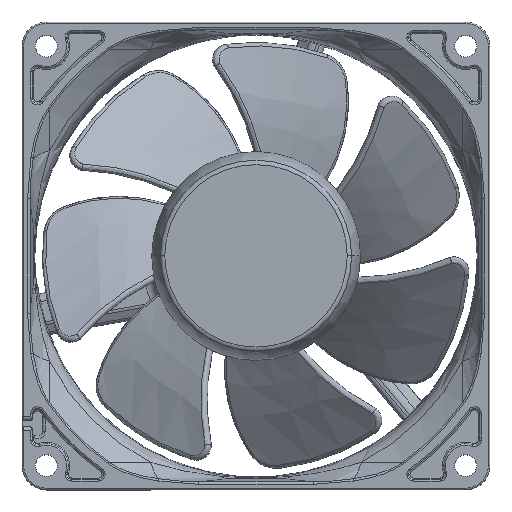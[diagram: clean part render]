
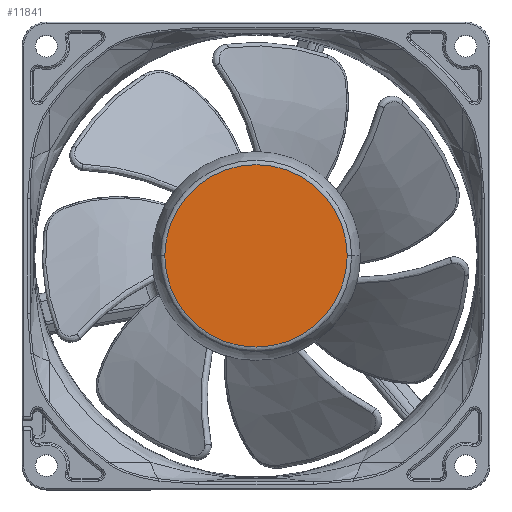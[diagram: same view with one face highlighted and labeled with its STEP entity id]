
A CAD part, top view. The second image highlights one B-rep face of the part: STEP entity #11841.
In plain terms, the highlighted planar face has unit normal (0, 0, 1).
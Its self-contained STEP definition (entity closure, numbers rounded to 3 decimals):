
#658 = PLANE ( 'NONE',  #34360 ) ;
#3933 = CARTESIAN_POINT ( 'NONE',  ( -17.937, 0., 31.4 ) ) ;
#6993 = FACE_OUTER_BOUND ( 'NONE', #13593, .T. ) ;
#7076 = CARTESIAN_POINT ( 'NONE',  ( 0., 0., 31.4 ) ) ;
#7643 = AXIS2_PLACEMENT_3D ( 'NONE', #7076, #25665, #9764 ) ;
#8652 = DIRECTION ( 'NONE',  ( 0., 0., 1. ) ) ;
#9583 = ORIENTED_EDGE ( 'NONE', *, *, #14613, .F. ) ;
#9764 = DIRECTION ( 'NONE',  ( -1., 0., 0. ) ) ;
#10255 = CIRCLE ( 'NONE', #21319, 17.937 ) ;
#11841 = ADVANCED_FACE ( 'NONE', ( #6993 ), #658, .T. ) ;
#13297 = CIRCLE ( 'NONE', #7643, 17.937 ) ;
#13593 = EDGE_LOOP ( 'NONE', ( #24647, #9583 ) ) ;
#13848 = VERTEX_POINT ( 'NONE', #15924 ) ;
#14112 = DIRECTION ( 'NONE',  ( 0., 0., -1. ) ) ;
#14613 = EDGE_CURVE ( 'NONE', #13848, #23533, #10255, .T. ) ;
#15924 = CARTESIAN_POINT ( 'NONE',  ( 17.937, 0., 31.4 ) ) ;
#21319 = AXIS2_PLACEMENT_3D ( 'NONE', #30023, #14112, #32666 ) ;
#23533 = VERTEX_POINT ( 'NONE', #3933 ) ;
#24205 = CARTESIAN_POINT ( 'NONE',  ( 0., 0., 31.4 ) ) ;
#24647 = ORIENTED_EDGE ( 'NONE', *, *, #31823, .F. ) ;
#25665 = DIRECTION ( 'NONE',  ( 0., 0., -1. ) ) ;
#27252 = DIRECTION ( 'NONE',  ( 1., 0., 0. ) ) ;
#30023 = CARTESIAN_POINT ( 'NONE',  ( 0., 0., 31.4 ) ) ;
#31823 = EDGE_CURVE ( 'NONE', #23533, #13848, #13297, .T. ) ;
#32666 = DIRECTION ( 'NONE',  ( -1., 0., 0. ) ) ;
#34360 = AXIS2_PLACEMENT_3D ( 'NONE', #24205, #8652, #27252 ) ;
